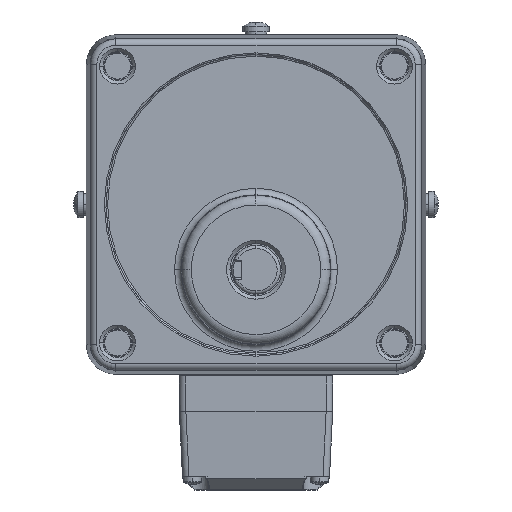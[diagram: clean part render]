
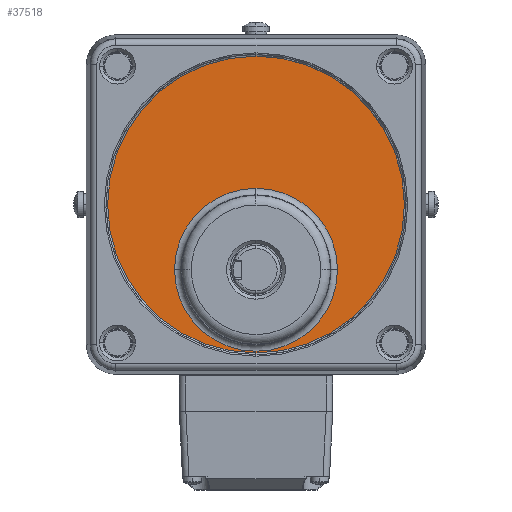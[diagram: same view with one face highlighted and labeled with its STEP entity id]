
A CAD part, left-side view. The second image highlights one B-rep face of the part: STEP entity #37518.
In plain terms, the highlighted planar face has unit normal (-1, 0, 0).
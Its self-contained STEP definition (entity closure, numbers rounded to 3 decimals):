
#2831 = CARTESIAN_POINT ( 'NONE',  ( 2949.725, -773.74, 45.491 ) ) ;
#2853 = DIRECTION ( 'NONE',  ( 0., 0., 1. ) ) ;
#3322 = CARTESIAN_POINT ( 'NONE',  ( 2949.725, -773.74, -20. ) ) ;
#4141 = DIRECTION ( 'NONE',  ( -1., 0., 0. ) ) ;
#6066 = PLANE ( 'NONE',  #24977 ) ;
#7603 = VERTEX_POINT ( 'NONE', #14174 ) ;
#8353 = DIRECTION ( 'NONE',  ( -1., 0., 0. ) ) ;
#10355 = CARTESIAN_POINT ( 'NONE',  ( 2949.725, -773.74, 0. ) ) ;
#10834 = CIRCLE ( 'NONE', #34711, 24.965 ) ;
#12141 = DIRECTION ( 'NONE',  ( 1., 0., 0. ) ) ;
#12465 = VERTEX_POINT ( 'NONE', #31867 ) ;
#12470 = FACE_OUTER_BOUND ( 'NONE', #29586, .T. ) ;
#14174 = CARTESIAN_POINT ( 'NONE',  ( 2949.725, -773.74, -45.491 ) ) ;
#16333 = DIRECTION ( 'NONE',  ( -1., 0., 0. ) ) ;
#17139 = DIRECTION ( 'NONE',  ( 0., -1., 0. ) ) ;
#17402 = AXIS2_PLACEMENT_3D ( 'NONE', #10355, #23377, #36386 ) ;
#17588 = ORIENTED_EDGE ( 'NONE', *, *, #38220, .F. ) ;
#19009 = EDGE_CURVE ( 'NONE', #34670, #7603, #35835, .T. ) ;
#19051 = CARTESIAN_POINT ( 'NONE',  ( 2949.725, -773.74, 0. ) ) ;
#21375 = DIRECTION ( 'NONE',  ( 0., 1., 0. ) ) ;
#22331 = AXIS2_PLACEMENT_3D ( 'NONE', #41383, #12141, #25161 ) ;
#22595 = AXIS2_PLACEMENT_3D ( 'NONE', #3322, #16333, #29422 ) ;
#23377 = DIRECTION ( 'NONE',  ( 1., 0., 0. ) ) ;
#23446 = VERTEX_POINT ( 'NONE', #39735 ) ;
#24977 = AXIS2_PLACEMENT_3D ( 'NONE', #19051, #32141, #2853 ) ;
#25161 = DIRECTION ( 'NONE',  ( 0., 0., -1. ) ) ;
#25248 = CARTESIAN_POINT ( 'NONE',  ( 2949.725, -798.705, -20. ) ) ;
#25984 = ORIENTED_EDGE ( 'NONE', *, *, #39187, .F. ) ;
#29211 = EDGE_LOOP ( 'NONE', ( #25984, #42242, #35344 ) ) ;
#29422 = DIRECTION ( 'NONE',  ( 0., -1., 0. ) ) ;
#29586 = EDGE_LOOP ( 'NONE', ( #17588, #40065 ) ) ;
#29611 = CIRCLE ( 'NONE', #35046, 24.965 ) ;
#30273 = EDGE_CURVE ( 'NONE', #12465, #23446, #41025, .T. ) ;
#31867 = CARTESIAN_POINT ( 'NONE',  ( 2949.725, -773.74, 4.965 ) ) ;
#32141 = DIRECTION ( 'NONE',  ( -1., 0., 0. ) ) ;
#32319 = VERTEX_POINT ( 'NONE', #25248 ) ;
#33436 = CARTESIAN_POINT ( 'NONE',  ( 2949.725, -773.74, -20. ) ) ;
#34670 = VERTEX_POINT ( 'NONE', #2831 ) ;
#34711 = AXIS2_PLACEMENT_3D ( 'NONE', #33436, #4141, #17139 ) ;
#34982 = EDGE_CURVE ( 'NONE', #23446, #32319, #29611, .T. ) ;
#35046 = AXIS2_PLACEMENT_3D ( 'NONE', #37585, #8353, #21375 ) ;
#35320 = FACE_BOUND ( 'NONE', #29211, .T. ) ;
#35344 = ORIENTED_EDGE ( 'NONE', *, *, #30273, .F. ) ;
#35835 = CIRCLE ( 'NONE', #17402, 45.491 ) ;
#36386 = DIRECTION ( 'NONE',  ( 0., 0., 1. ) ) ;
#37518 = ADVANCED_FACE ( 'NONE', ( #12470, #35320 ), #6066, .T. ) ;
#37585 = CARTESIAN_POINT ( 'NONE',  ( 2949.725, -773.74, -20. ) ) ;
#38220 = EDGE_CURVE ( 'NONE', #7603, #34670, #40764, .T. ) ;
#39187 = EDGE_CURVE ( 'NONE', #32319, #12465, #10834, .T. ) ;
#39735 = CARTESIAN_POINT ( 'NONE',  ( 2949.725, -748.775, -20. ) ) ;
#40065 = ORIENTED_EDGE ( 'NONE', *, *, #19009, .F. ) ;
#40764 = CIRCLE ( 'NONE', #22331, 45.491 ) ;
#41025 = CIRCLE ( 'NONE', #22595, 24.965 ) ;
#41383 = CARTESIAN_POINT ( 'NONE',  ( 2949.725, -773.74, 0. ) ) ;
#42242 = ORIENTED_EDGE ( 'NONE', *, *, #34982, .F. ) ;
